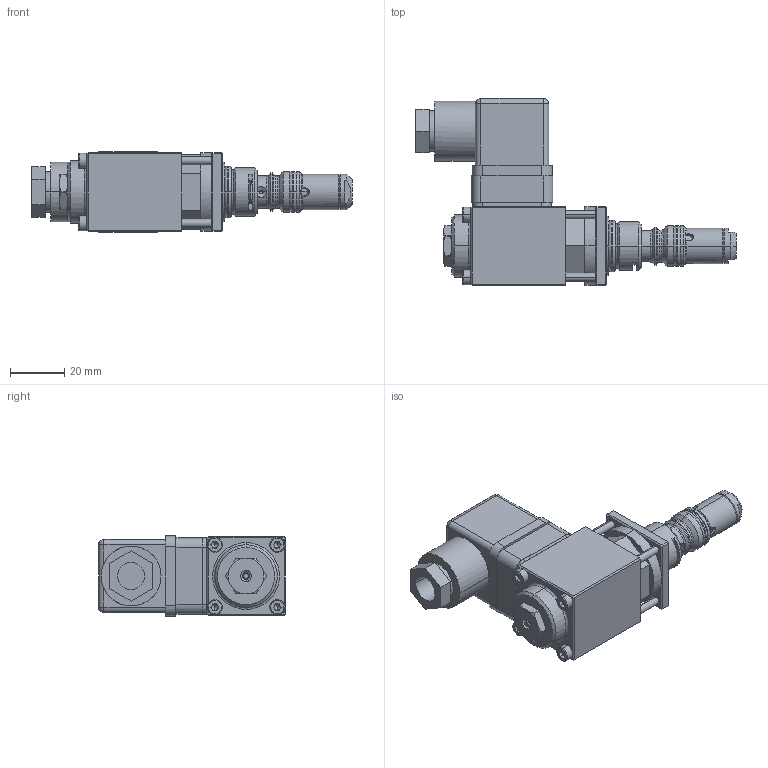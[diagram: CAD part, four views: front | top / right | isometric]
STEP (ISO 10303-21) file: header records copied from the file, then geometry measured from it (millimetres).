
FILE_DESCRIPTION (( 'STEP AP214' ), '1' );
FILE_NAME ('QZPPM18.STEP', '2017-03-24T13:04:08', ( '' ), ( '' ), 'SwSTEP 2.0', 'SolidWorks 2016', '' );
FILE_SCHEMA (( 'AUTOMOTIVE_DESIGN' ));
Length unit declared in the file: millimetre
Products named in the file (1): QZPPM18
Bounding box: 118.05 x 68.8 x 29.5 mm (x, y, z)
Volume: 81908.8 mm3; surface area: 28945.5 mm2
Topology: 7 solids, 12 shells, 722 faces, 1774 edges, 1086 vertices
Faces by surface type: plane 355, cylinder 218, cone 72, torus 55, bspline 22
Entity records: 29985 total; most frequent: CARTESIAN_POINT 4932, DIRECTION 3696, ORIENTED_EDGE 3512, EDGE_CURVE 1756, AXIS2_PLACEMENT_3D 1360, VERTEX_POINT 1086, LINE 976, VECTOR 976
